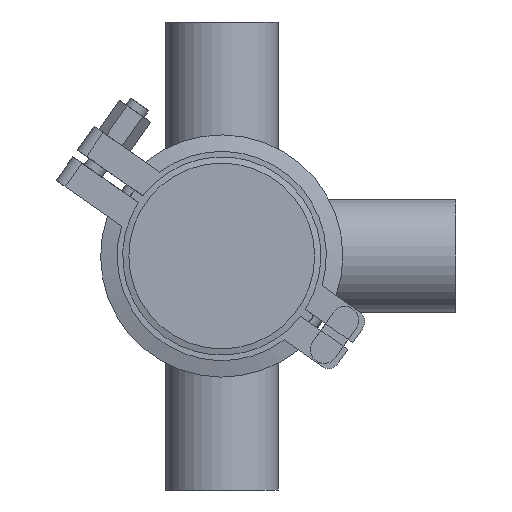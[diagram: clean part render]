
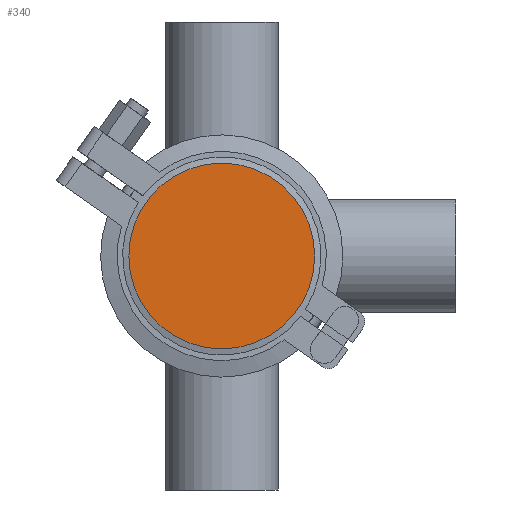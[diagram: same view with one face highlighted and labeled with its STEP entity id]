
A CAD part, front view. The second image highlights one B-rep face of the part: STEP entity #340.
In plain terms, the highlighted planar face has unit normal (0, -1, 0).
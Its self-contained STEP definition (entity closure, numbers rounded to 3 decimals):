
#340 = ADVANCED_FACE ( 'NONE', ( #2322 ), #2110, .T. ) ;
#2110 = PLANE ( 'NONE',  #11103 ) ;
#2322 = FACE_OUTER_BOUND ( 'NONE', #16937, .T. ) ;
#3419 = CARTESIAN_POINT ( 'NONE',  ( 0., 0., 33.75 ) ) ;
#9519 = CIRCLE ( 'NONE', #15422, 33.75 ) ;
#11103 = AXIS2_PLACEMENT_3D ( 'NONE', #13440, #14560, #13151 ) ;
#11252 = VERTEX_POINT ( 'NONE', #3419 ) ;
#12423 = EDGE_CURVE ( 'NONE', #11252, #11252, #9519, .T. ) ;
#13151 = DIRECTION ( 'NONE',  ( 0., 0., -1. ) ) ;
#13440 = CARTESIAN_POINT ( 'NONE',  ( -33.75, 0., 0. ) ) ;
#14402 = ORIENTED_EDGE ( 'NONE', *, *, #12423, .F. ) ;
#14560 = DIRECTION ( 'NONE',  ( 0., -1., 0. ) ) ;
#15422 = AXIS2_PLACEMENT_3D ( 'NONE', #16856, #16943, #18509 ) ;
#16856 = CARTESIAN_POINT ( 'NONE',  ( 0., 0., 0. ) ) ;
#16937 = EDGE_LOOP ( 'NONE', ( #14402 ) ) ;
#16943 = DIRECTION ( 'NONE',  ( 0., 1., 0. ) ) ;
#18509 = DIRECTION ( 'NONE',  ( 0., 0., 1. ) ) ;
